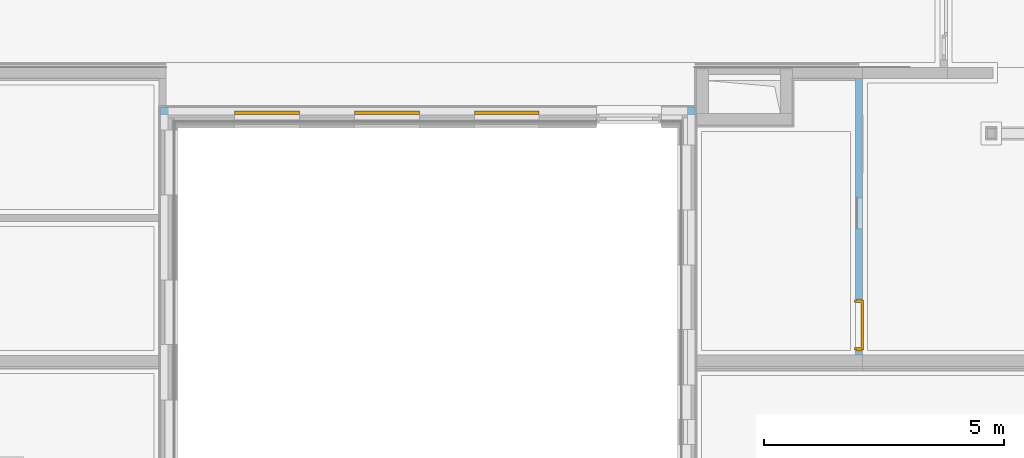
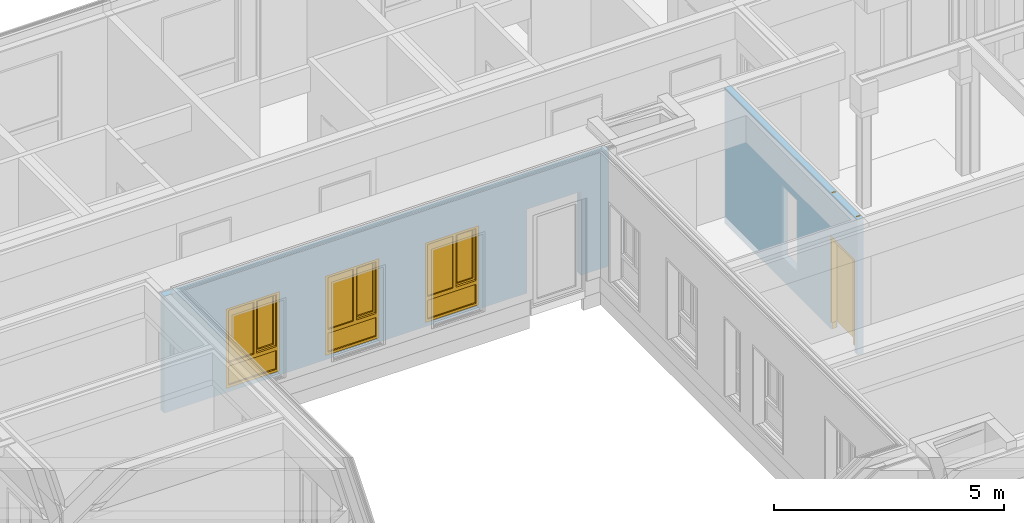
# One storey, part 84 of 207: 3 windows, 1 door, 6 openings, plus 2 elements that do not belong to this part.
"""IFC4 building model written with IfcOpenShell, lengths in metres."""

import ifcopenshell
import ifcopenshell.guid

model = None  # the IFC model being written
_history = None  # IfcOwnerHistory: only IFC2X3 demands one
_inside = {}  # id of a spatial element -> (the spatial element, [elements in it])
_under = {}  # id of a project, library or spatial element -> (it, [spatial elements below it])
_declared = {}  # id of a project -> (the project, [libraries it declares])
_typed = {}  # id of a type object -> (the type object, [elements of that type])
_made_of = {}  # id of a material, layer set ... -> (it, [elements and type objects made of it])


def new_model(schema):
    """Start an empty IFC model of exactly this schema.

    Asked for "IFC4X3", IfcOpenShell would pick the latest addendum, in which some entities
    have other attributes; the version numbers below select the first issue.
    IFC2X3 requires an IfcOwnerHistory on every rooted entity: one is made here for all.
    """
    global model, _history
    if schema == "IFC4X3":
        model = ifcopenshell.file(schema_version=(4, 3, 0, 0))
    else:
        model = ifcopenshell.file(schema=schema)
    _inside.clear()
    _under.clear()
    _declared.clear()
    _typed.clear()
    _made_of.clear()
    _history = None
    if model.schema == "IFC2X3":
        org = make("IfcOrganization", Name="unknown")
        user = make(
            "IfcPersonAndOrganization",
            ThePerson=make("IfcPerson", FamilyName="unknown"),
            TheOrganization=org,
        )
        app = make(
            "IfcApplication",
            ApplicationDeveloper=org,
            Version="unknown",
            ApplicationFullName="unknown",
            ApplicationIdentifier="unknown",
        )
        _history = make(
            "IfcOwnerHistory",
            OwningUser=user,
            OwningApplication=app,
            ChangeAction="ADDED",
            CreationDate=0,
        )
    return model


def make(cls, **values):
    """One entity of the class cls with the attributes given. An attribute that is None is left unset."""
    return model.create_entity(
        cls, **{name: value for name, value in values.items() if value is not None}
    )


def entity(cls, *values):
    """Any entity or typed value of the class cls, its attributes in the order of the schema. None: left unset."""
    e = model.create_entity(cls)
    for i, value in enumerate(values):
        if value is not None:
            e[i] = value
    return e


def rooted(cls, **values):
    """An entity with a GlobalId (a new one), such as an element, a storey or a relation."""
    return make(cls, GlobalId=ifcopenshell.guid.new(), OwnerHistory=_history, **values)


def si_unit(unit_type, name, prefix=None):
    """IfcSIUnit, for example si_unit("LENGTHUNIT", "METRE", prefix="MILLI")."""
    return make("IfcSIUnit", UnitType=unit_type, Prefix=prefix, Name=name)


def converted_unit(unit_type, name, factor, base, dimensions=None, offset=None):
    """IfcConversionBasedUnit, such as the inch: factor (a typed value) times the base unit."""
    return make(
        "IfcConversionBasedUnit"
        if offset is None
        else "IfcConversionBasedUnitWithOffset",
        ConversionOffset=offset,
        Dimensions=None
        if dimensions is None
        else entity("IfcDimensionalExponents", *dimensions),
        UnitType=unit_type,
        Name=name,
        ConversionFactor=make(
            "IfcMeasureWithUnit", ValueComponent=factor, UnitComponent=base
        ),
    )


def derived_unit(unit_type, elements):
    """IfcDerivedUnit: a product of units, each with its exponent."""
    return make(
        "IfcDerivedUnit",
        Elements=[
            make("IfcDerivedUnitElement", Unit=unit, Exponent=power)
            for unit, power in elements
        ],
        UnitType=unit_type,
    )


def assignment(units):
    """IfcUnitAssignment: the units of a project."""
    return None if units is None else make("IfcUnitAssignment", Units=units)


def point(xyz):
    """IfcCartesianPoint."""
    return None if xyz is None else make("IfcCartesianPoint", Coordinates=xyz)


def direction(xyz):
    """IfcDirection."""
    return None if xyz is None else make("IfcDirection", DirectionRatios=xyz)


def frame(location, z_axis=None, x_axis=None):
    """IfcAxis2Placement3D, a coordinate frame: its origin and axes. An axis left out is left unset."""
    return make(
        "IfcAxis2Placement3D",
        Location=point(location),
        Axis=direction(z_axis),
        RefDirection=direction(x_axis),
    )


def frame_2d(location, x_axis=None):
    """IfcAxis2Placement2D, a coordinate frame in the plane: its origin and x axis."""
    return make(
        "IfcAxis2Placement2D", Location=point(location), RefDirection=direction(x_axis)
    )


def origin():
    """The frame at (0, 0, 0) with its axes left unset."""
    return frame((0.0, 0.0, 0.0))


def origin_with_axes():
    """The frame at (0, 0, 0) with the z axis (0, 0, 1) and the x axis (1, 0, 0) written out."""
    return frame((0.0, 0.0, 0.0), z_axis=(0.0, 0.0, 1.0), x_axis=(1.0, 0.0, 0.0))


def place(relative_to, where):
    """IfcLocalPlacement: puts the frame where relative to a parent placement (None: the world)."""
    return make(
        "IfcLocalPlacement", PlacementRelTo=relative_to, RelativePlacement=where
    )


def context(
    kind, dimensions, precision=None, world=None, true_north=None, identifier=None
):
    """IfcGeometricRepresentationContext, for example the 3D "Model" context."""
    return make(
        "IfcGeometricRepresentationContext",
        ContextIdentifier=identifier,
        ContextType=kind,
        CoordinateSpaceDimension=dimensions,
        Precision=precision,
        WorldCoordinateSystem=world,
        TrueNorth=true_north,
    )


def subcontext(parent, identifier, kind, view, scale=None):
    """IfcGeometricRepresentationSubContext, for example "Body" below "Model"."""
    return make(
        "IfcGeometricRepresentationSubContext",
        ContextIdentifier=identifier,
        ContextType=kind,
        ParentContext=parent,
        TargetScale=scale,
        TargetView=view,
    )


def project(units=None, contexts=None):
    """IfcProject with its units and contexts."""
    return rooted(
        "IfcProject",
        Name="project",
        RepresentationContexts=contexts,
        UnitsInContext=assignment(units),
    )


def spatial(cls, under=None, at=None, **own):
    """A site, building, storey or space (cls), placed at a placement, below another one or the project."""
    s = rooted(cls, ObjectPlacement=at, **own)
    if under is not None:
        _under.setdefault(under.id(), (under, []))[1].append(s)
    return s


def polyline(points):
    """IfcPolyline through the points."""
    return make("IfcPolyline", Points=[point(p) for p in points])


def profile(cls, at=None, kind="AREA", **sizes):
    """A parametric profile (cls). Its sizes go by their IFC names, for example OverallWidth=200.0."""
    return make(cls, ProfileType=kind, Position=at, **sizes)


def rectangle(**sizes):
    """IfcRectangleProfileDef."""
    return profile("IfcRectangleProfileDef", **sizes)


def outline(outer, holes=None, kind="AREA"):
    """IfcArbitraryClosedProfileDef: a profile drawn as a closed curve; with holes, ...WithVoids."""
    if holes is None:
        return make("IfcArbitraryClosedProfileDef", ProfileType=kind, OuterCurve=outer)
    return make(
        "IfcArbitraryProfileDefWithVoids",
        ProfileType=kind,
        OuterCurve=outer,
        InnerCurves=holes,
    )


def extrude(swept, where, along, depth):
    """IfcExtrudedAreaSolid: the profile swept, set in the frame where, extruded along a direction by depth."""
    return make(
        "IfcExtrudedAreaSolid",
        SweptArea=swept,
        Position=where,
        ExtrudedDirection=direction(along),
        Depth=depth,
    )


def faces_of(points, faces, orient=None, outer=None):
    """IfcFace entities. A face is a list of loops; a loop is a list of indices into points, from 0.

    orient and outer hold one flag for each loop. By default every Orientation is true, the
    first loop of a face is its IfcFaceOuterBound and the others are IfcFaceBound.
    """
    made = []
    for i, loops in enumerate(faces):
        bounds = []
        for j, loop in enumerate(loops):
            is_outer = j == 0 if outer is None else outer[i][j]
            bounds.append(
                make(
                    "IfcFaceOuterBound" if is_outer else "IfcFaceBound",
                    Bound=make("IfcPolyLoop", Polygon=[points[k] for k in loop]),
                    Orientation=True if orient is None else orient[i][j],
                )
            )
        made.append(make("IfcFace", Bounds=bounds))
    return made


def closed_shell(faces, orient=None, outer=None):
    """The faces of one IfcClosedShell. faceted_brep and surface_model build it on their shared points."""
    return ("IfcClosedShell", faces, orient, outer)


def open_shell(faces, orient=None, outer=None):
    """The faces of one IfcOpenShell. surface_model builds it on its shared points."""
    return ("IfcOpenShell", faces, orient, outer)


def faceted_brep(points, faces, orient=None, outer=None, voids=None):
    """IfcFacetedBrep: a solid bounded by flat faces; with voids (closed shells), ...WithVoids."""
    shared = [point(p) for p in points]
    hull = make("IfcClosedShell", CfsFaces=faces_of(shared, faces, orient, outer))
    if voids is None:
        return make("IfcFacetedBrep", Outer=hull)
    return make(
        "IfcFacetedBrepWithVoids",
        Outer=hull,
        Voids=[
            make(cls, CfsFaces=faces_of(shared, fs, o, b)) for cls, fs, o, b in voids
        ],
    )


def surface_model(cls, points, shells):
    """IfcFaceBasedSurfaceModel or IfcShellBasedSurfaceModel (cls): surfaces that need not close."""
    shared = [point(p) for p in points]
    made = [make(c, CfsFaces=faces_of(shared, fs, o, b)) for c, fs, o, b in shells]
    if cls == "IfcFaceBasedSurfaceModel":
        return make(cls, FbsmFaces=made)
    return make(cls, SbsmBoundary=made)


def shape(context_of_items, identifier, shape_type, items):
    """IfcShapeRepresentation: the items that make up one representation, for example the "Body"."""
    return make(
        "IfcShapeRepresentation",
        ContextOfItems=context_of_items,
        RepresentationIdentifier=identifier,
        RepresentationType=shape_type,
        Items=items,
    )


def source(mapping_origin, context_of_items, identifier, shape_type, items):
    """IfcRepresentationMap: a shape defined once, which mapped items show again and again."""
    return make(
        "IfcRepresentationMap",
        MappingOrigin=mapping_origin,
        MappedRepresentation=shape(context_of_items, identifier, shape_type, items),
    )


def transform(
    local_origin,
    x_axis=None,
    y_axis=None,
    z_axis=None,
    scale=None,
    scale2=None,
    scale3=None,
    uniform=True,
):
    """IfcCartesianTransformationOperator3D, or its non-uniform kind. x_axis, y_axis, z_axis: its Axis1, 2, 3."""
    if uniform:
        return make(
            "IfcCartesianTransformationOperator3D",
            Axis1=direction(x_axis),
            Axis2=direction(y_axis),
            LocalOrigin=point(local_origin),
            Scale=scale,
            Axis3=direction(z_axis),
        )
    return make(
        "IfcCartesianTransformationOperator3DnonUniform",
        Axis1=direction(x_axis),
        Axis2=direction(y_axis),
        LocalOrigin=point(local_origin),
        Scale=scale,
        Axis3=direction(z_axis),
        Scale2=scale2,
        Scale3=scale3,
    )


def mapped(mapping_source, mapping_target):
    """IfcMappedItem: shows the shape of a source again, moved by a transform."""
    return make(
        "IfcMappedItem", MappingSource=mapping_source, MappingTarget=mapping_target
    )


def material(Name=None, Category=None):
    """IfcMaterial."""
    return make("IfcMaterial", Name=Name, Category=Category)


def made_of(thing, what):
    """Note that an element or type object is made of a material, layer set ...; save() writes the relation."""
    if what is not None:
        _made_of.setdefault(what.id(), (what, []))[1].append(thing)
    return thing


def type_object(cls, material=None, **own):
    """A type object (cls), such as IfcWallType, which elements share."""
    return made_of(rooted(cls, **own), material)


def element(
    cls,
    number,
    at=None,
    inside=None,
    cuts=None,
    type_object=None,
    material=None,
    context=None,
    identifier="Body",
    shape_type=None,
    held_by="IfcProductDefinitionShape",
    body=None,
    shapes=None,
    **own,
):
    """One element of the class cls, such as IfcWall. Its Tag is "e" and its number.

    at: its placement. inside: the storey or other place that contains it. cuts: it is an
    opening in that element (IfcRelVoidsElement). A single representation is given by context,
    identifier, shape_type and body (its items); several are given by shapes. held_by: the class
    of the entity that holds the representations. save() writes the other relations.
    """
    e = rooted(cls, Tag="e%d" % number, ObjectPlacement=at, **own)
    if body is not None:
        shapes = [shape(context, identifier, shape_type, body)]
    if shapes is not None:
        e.Representation = make(held_by, Representations=shapes)
    if inside is not None:
        _inside.setdefault(inside.id(), (inside, []))[1].append(e)
    if cuts is not None:
        rooted(
            "IfcRelVoidsElement", RelatingBuildingElement=cuts, RelatedOpeningElement=e
        )
    if type_object is not None:
        _typed.setdefault(type_object.id(), (type_object, []))[1].append(e)
    return made_of(e, material)


def fill(opening, filler):
    """IfcRelFillsElement: the door or window that sits in an opening."""
    return rooted(
        "IfcRelFillsElement",
        RelatingOpeningElement=opening,
        RelatedBuildingElement=filler,
    )


def aggregate(whole, parts):
    """IfcRelAggregates: a whole, such as a stair, and the parts it consists of."""
    return rooted("IfcRelAggregates", RelatingObject=whole, RelatedObjects=parts)


def save(model, path):
    """Write the relations noted so far, then the file.

    IfcRelAggregates (storeys below a building ...), IfcRelContainedInSpatialStructure (elements
    in a storey), IfcRelDefinesByType, IfcRelAssociatesMaterial and IfcRelDeclares: one each for
    every whole, place, type object, material and project.
    """
    for whole, parts in _under.values():
        aggregate(whole, parts)
    for where, things in _inside.values():
        rooted(
            "IfcRelContainedInSpatialStructure",
            RelatedElements=things,
            RelatingStructure=where,
        )
    for kind, things in _typed.values():
        rooted("IfcRelDefinesByType", RelatedObjects=things, RelatingType=kind)
    for what, things in _made_of.values():
        rooted("IfcRelAssociatesMaterial", RelatedObjects=things, RelatingMaterial=what)
    for by, libraries in _declared.values():
        rooted("IfcRelDeclares", RelatingContext=by, RelatedDefinitions=libraries)
    model.write(path)


model = new_model("IFC4")

# Units and contexts
model_context = context("Model", 3, precision=1e-05, world=origin())
body_context = subcontext(model_context, "Body", "Model", "MODEL_VIEW")
ifc_project = project(units=[si_unit("LENGTHUNIT", "METRE"), si_unit("AREAUNIT", "SQUARE_METRE"), si_unit("VOLUMEUNIT", "CUBIC_METRE"), si_unit("MASSUNIT", "GRAM", prefix="KILO"), converted_unit("PLANEANGLEUNIT", "DEGREE", entity("IfcPlaneAngleMeasure", 0.0174532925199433), si_unit("PLANEANGLEUNIT", "RADIAN"), dimensions=[0, 0, 0, 0, 0, 0, 0]), derived_unit("THERMALTRANSMITTANCEUNIT", [(si_unit("POWERUNIT", "WATT"), 1), (si_unit("THERMODYNAMICTEMPERATUREUNIT", "KELVIN"), -1), (si_unit("LENGTHUNIT", "METRE"), -2)]), derived_unit("VOLUMETRICFLOWRATEUNIT", [(si_unit("LENGTHUNIT", "METRE"), 3), (converted_unit("TIMEUNIT", "hour", entity("IfcTimeMeasure", 3600.0), si_unit("TIMEUNIT", "SECOND"), dimensions=[0, 0, 1, 0, 0, 0, 0]), -1), (si_unit("LENGTHUNIT", "METRE"), -1)])], contexts=[model_context])

# Site, building, storey
site_placement = place(None, origin())
site = spatial("IfcSite", under=ifc_project, at=site_placement, Name="Psychiatrie Neubau Wunstorf", CompositionType="ELEMENT")
building_placement = place(site_placement, origin())
building = spatial("IfcBuilding", under=site, at=building_placement, Name="Neubau H2 Stationsgebäude", CompositionType="ELEMENT")
storey_placement = place(building_placement, frame((0.0, 0.0, -0.2)))
storey = spatial("IfcBuildingStorey", under=building, at=storey_placement, Name="H2 Ebene 0", CompositionType="ELEMENT", Elevation=-0.2)

# Wall, openings, windows
ifc_material_1 = material(Name="WA-HD")
wall_1_placement = place(storey_placement, frame((26.825, 21.0, 0.5), z_axis=(0.0, 0.0, 1.0), x_axis=(-1.0, 0.0, 0.0)))
wall_1 = element("IfcWall", 1, at=wall_1_placement, inside=storey, material=ifc_material_1, context=body_context, shape_type="SweptSolid", body=[
    extrude(rectangle(XDim=11.15, YDim=0.16, at=frame_2d((5.575, 0.08), x_axis=(1.0, 0.0))), origin_with_axes(), (0.0, 0.0, 1.0), 3.1),
])
opening_1_placement = place(wall_1_placement, frame((9.60469999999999, 0.16, 0.1), z_axis=(0.0, -1.0, 0.0), x_axis=(0.0, 0.0, 1.0)))
opening_1 = element("IfcOpeningElement", 2, at=opening_1_placement, cuts=wall_1, Name="Fensteröffnung", ObjectType="Opening", context=body_context, shape_type="SweptSolid", body=[
    extrude(outline(polyline([(2.12, 1.35), (2.12, 0.0), (0.0, 0.0), (0.0, 1.35), (2.12, 1.35)])), origin_with_axes(), (0.0, 0.0, 1.0), 0.16),
])
opening_2_placement = place(wall_1_placement, frame((7.10469999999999, 0.16, 0.1), z_axis=(0.0, -1.0, 0.0), x_axis=(0.0, 0.0, 1.0)))
opening_2 = element("IfcOpeningElement", 3, at=opening_2_placement, cuts=wall_1, Name="Fensteröffnung", ObjectType="Opening", context=body_context, shape_type="SweptSolid", body=[
    extrude(outline(polyline([(2.12, 1.35), (2.12, 0.0), (0.0, 0.0), (0.0, 1.35), (2.12, 1.35)])), origin_with_axes(), (0.0, 0.0, 1.0), 0.16),
])
opening_3_placement = place(wall_1_placement, frame((4.60469999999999, 0.16, 0.1), z_axis=(0.0, -1.0, 0.0), x_axis=(0.0, 0.0, 1.0)))
opening_3 = element("IfcOpeningElement", 4, at=opening_3_placement, cuts=wall_1, Name="Fensteröffnung", ObjectType="Opening", context=body_context, shape_type="SweptSolid", body=[
    extrude(outline(polyline([(2.12, 1.35), (2.12, 0.0), (0.0, 0.0), (0.0, 1.35), (2.12, 1.35)])), origin_with_axes(), (0.0, 0.0, 1.0), 0.16),
])
opening_4_placement = place(wall_1_placement, frame((2.05483132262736, 0.16, -0.5), z_axis=(0.0, -1.0, 0.0), x_axis=(0.0, 0.0, 1.0)))
element("IfcOpeningElement", 5, at=opening_4_placement, cuts=wall_1, Name="Türöffnung", ObjectType="Opening", context=body_context, shape_type="SweptSolid", body=[
    extrude(outline(polyline([(2.72, 1.35), (2.72, 0.0), (0.0, 0.0), (0.0, 1.35), (2.72, 1.35)])), origin_with_axes(), (0.0, 0.0, 1.0), 0.16),
])
shared_shape_1 = source(origin_with_axes(), body_context, "Body", "SurfaceModel", [
    surface_model("IfcShellBasedSurfaceModel", [(0.0, 0.0, 2.12), (0.07, 0.0, 2.12), (0.07, 0.0, 0.0), (0.0, 0.0, 0.0), (0.0, 0.07, 0.0), (0.07, 0.07, 0.0), (0.07, 0.07, 2.12), (0.0, 0.07, 2.12)], [closed_shell([[[0, 1, 2, 3]], [[4, 5, 6, 7]], [[3, 4, 7, 0]], [[2, 5, 4, 3]], [[1, 6, 5, 2]], [[0, 7, 6, 1]]], orient=[[False], [False], [False], [False], [False], [False]])]),
    surface_model("IfcShellBasedSurfaceModel", [(1.28, 0.0, 2.12), (1.35, 0.0, 2.12), (1.35, 0.0, 0.0), (1.28, 0.0, 0.0), (1.28, 0.07, 0.0), (1.35, 0.07, 0.0), (1.35, 0.07, 2.12), (1.28, 0.07, 2.12)], [closed_shell([[[0, 1, 2, 3]], [[4, 5, 6, 7]], [[3, 4, 7, 0]], [[2, 5, 4, 3]], [[1, 6, 5, 2]], [[0, 7, 6, 1]]], orient=[[False], [False], [False], [False], [False], [False]])]),
    surface_model("IfcShellBasedSurfaceModel", [(0.07, 0.0, 0.07), (1.28, 0.0, 0.07), (1.28, 0.0, 0.0), (0.07, 0.0, 0.0), (0.07, 0.07, 0.0), (1.28, 0.07, 0.0), (1.28, 0.07, 0.07), (0.07, 0.07, 0.07)], [closed_shell([[[0, 1, 2, 3]], [[4, 5, 6, 7]], [[3, 4, 7, 0]], [[2, 5, 4, 3]], [[1, 6, 5, 2]], [[0, 7, 6, 1]]], orient=[[False], [False], [False], [False], [False], [False]])]),
    surface_model("IfcShellBasedSurfaceModel", [(0.07, 0.0, 2.12), (1.28, 0.0, 2.12), (1.28, 0.0, 2.05), (0.07, 0.0, 2.05), (0.07, 0.07, 2.05), (1.28, 0.07, 2.05), (1.28, 0.07, 2.12), (0.07, 0.07, 2.12)], [closed_shell([[[0, 1, 2, 3]], [[4, 5, 6, 7]], [[3, 4, 7, 0]], [[2, 5, 4, 3]], [[1, 6, 5, 2]], [[0, 7, 6, 1]]], orient=[[False], [False], [False], [False], [False], [False]])]),
    surface_model("IfcShellBasedSurfaceModel", [(0.07, 0.0, 0.67), (1.28, 0.0, 0.67), (1.28, 0.0, 0.57), (0.07, 0.0, 0.57), (0.07, 0.07, 0.57), (1.28, 0.07, 0.57), (1.28, 0.07, 0.67), (0.07, 0.07, 0.67)], [closed_shell([[[0, 1, 2, 3]], [[4, 5, 6, 7]], [[3, 4, 7, 0]], [[2, 5, 4, 3]], [[1, 6, 5, 2]], [[0, 7, 6, 1]]], orient=[[False], [False], [False], [False], [False], [False]])]),
    surface_model("IfcShellBasedSurfaceModel", [(0.07, 0.035, 0.07), (0.07, 0.035, 0.57), (1.28, 0.035, 0.57), (1.28, 0.035, 0.07)], [open_shell([[[0, 1, 2, 3]]], orient=[[False]])]),
    surface_model("IfcShellBasedSurfaceModel", [(0.57, 0.0, 2.05), (0.64, 0.0, 2.05), (0.64, 0.0, 0.67), (0.57, 0.0, 0.67), (0.57, 0.07, 0.67), (0.64, 0.07, 0.67), (0.64, 0.07, 2.05), (0.57, 0.07, 2.05)], [closed_shell([[[0, 1, 2, 3]], [[4, 5, 6, 7]], [[3, 4, 7, 0]], [[2, 5, 4, 3]], [[1, 6, 5, 2]], [[0, 7, 6, 1]]], orient=[[False], [False], [False], [False], [False], [False]])]),
    surface_model("IfcShellBasedSurfaceModel", [(0.05, -0.05, 2.07), (0.12, -0.05, 2.07), (0.12, -0.05, 0.65), (0.05, -0.05, 0.65), (0.05, 0.02, 0.65), (0.12, 0.02, 0.65), (0.12, 0.02, 2.07), (0.05, 0.02, 2.07)], [closed_shell([[[0, 1, 2, 3]], [[4, 5, 6, 7]], [[3, 4, 7, 0]], [[2, 5, 4, 3]], [[1, 6, 5, 2]], [[0, 7, 6, 1]]], orient=[[False], [False], [False], [False], [False], [False]])]),
    surface_model("IfcShellBasedSurfaceModel", [(0.52, -0.05, 2.07), (0.59, -0.05, 2.07), (0.59, -0.05, 0.65), (0.52, -0.05, 0.65), (0.52, 0.02, 0.65), (0.59, 0.02, 0.65), (0.59, 0.02, 2.07), (0.52, 0.02, 2.07)], [closed_shell([[[0, 1, 2, 3]], [[4, 5, 6, 7]], [[3, 4, 7, 0]], [[2, 5, 4, 3]], [[1, 6, 5, 2]], [[0, 7, 6, 1]]], orient=[[False], [False], [False], [False], [False], [False]])]),
    surface_model("IfcShellBasedSurfaceModel", [(0.12, -0.05, 0.72), (0.52, -0.05, 0.72), (0.52, -0.05, 0.65), (0.12, -0.05, 0.65), (0.12, 0.02, 0.65), (0.52, 0.02, 0.65), (0.52, 0.02, 0.72), (0.12, 0.02, 0.72)], [closed_shell([[[0, 1, 2, 3]], [[4, 5, 6, 7]], [[3, 4, 7, 0]], [[2, 5, 4, 3]], [[1, 6, 5, 2]], [[0, 7, 6, 1]]], orient=[[False], [False], [False], [False], [False], [False]])]),
    surface_model("IfcShellBasedSurfaceModel", [(0.12, -0.05, 2.07), (0.52, -0.05, 2.07), (0.52, -0.05, 2.0), (0.12, -0.05, 2.0), (0.12, 0.02, 2.0), (0.52, 0.02, 2.0), (0.52, 0.02, 2.07), (0.12, 0.02, 2.07)], [closed_shell([[[0, 1, 2, 3]], [[4, 5, 6, 7]], [[3, 4, 7, 0]], [[2, 5, 4, 3]], [[1, 6, 5, 2]], [[0, 7, 6, 1]]], orient=[[False], [False], [False], [False], [False], [False]])]),
    surface_model("IfcShellBasedSurfaceModel", [(0.64, 0.035, 0.67), (0.64, 0.035, 2.05), (1.28, 0.035, 2.05), (1.28, 0.035, 0.67)], [open_shell([[[0, 1, 2, 3]]], orient=[[False]])]),
    surface_model("IfcShellBasedSurfaceModel", [(0.12, -0.015, 0.72), (0.12, -0.015, 2.0), (0.52, -0.015, 2.0), (0.52, -0.015, 0.72)], [open_shell([[[0, 1, 2, 3]]], orient=[[False]])]),
])
window_1_placement = place(opening_1_placement, frame((0.0, 1.35, 0.086), z_axis=(1.0, 0.0, 0.0), x_axis=(0.0, -1.0, 0.0)))
window_1 = element("IfcWindow", 6, at=window_1_placement, inside=storey, Name="Fenster", OverallHeight=2.12, OverallWidth=1.35, PartitioningType="USERDEFINED", PredefinedType="WINDOW", context=body_context, shape_type="MappedRepresentation", body=[
    mapped(shared_shape_1, transform((0.0, 0.0, 0.0), x_axis=(1.0, 0.0, 0.0), y_axis=(0.0, 1.0, 0.0), z_axis=(0.0, 0.0, 1.0), scale=1.0)),
])
fill(opening_1, window_1)
shared_shape_2 = source(origin_with_axes(), body_context, "Body", "SurfaceModel", [
    surface_model("IfcShellBasedSurfaceModel", [(0.0, 0.0, 2.12), (0.07, 0.0, 2.12), (0.07, 0.0, 0.0), (0.0, 0.0, 0.0), (0.0, 0.07, 0.0), (0.07, 0.07, 0.0), (0.07, 0.07, 2.12), (0.0, 0.07, 2.12)], [closed_shell([[[0, 1, 2, 3]], [[4, 5, 6, 7]], [[3, 4, 7, 0]], [[2, 5, 4, 3]], [[1, 6, 5, 2]], [[0, 7, 6, 1]]], orient=[[False], [False], [False], [False], [False], [False]])]),
    surface_model("IfcShellBasedSurfaceModel", [(1.28, 0.0, 2.12), (1.35, 0.0, 2.12), (1.35, 0.0, 0.0), (1.28, 0.0, 0.0), (1.28, 0.07, 0.0), (1.35, 0.07, 0.0), (1.35, 0.07, 2.12), (1.28, 0.07, 2.12)], [closed_shell([[[0, 1, 2, 3]], [[4, 5, 6, 7]], [[3, 4, 7, 0]], [[2, 5, 4, 3]], [[1, 6, 5, 2]], [[0, 7, 6, 1]]], orient=[[False], [False], [False], [False], [False], [False]])]),
    surface_model("IfcShellBasedSurfaceModel", [(0.07, 0.0, 0.07), (1.28, 0.0, 0.07), (1.28, 0.0, 0.0), (0.07, 0.0, 0.0), (0.07, 0.07, 0.0), (1.28, 0.07, 0.0), (1.28, 0.07, 0.07), (0.07, 0.07, 0.07)], [closed_shell([[[0, 1, 2, 3]], [[4, 5, 6, 7]], [[3, 4, 7, 0]], [[2, 5, 4, 3]], [[1, 6, 5, 2]], [[0, 7, 6, 1]]], orient=[[False], [False], [False], [False], [False], [False]])]),
    surface_model("IfcShellBasedSurfaceModel", [(0.07, 0.0, 2.12), (1.28, 0.0, 2.12), (1.28, 0.0, 2.05), (0.07, 0.0, 2.05), (0.07, 0.07, 2.05), (1.28, 0.07, 2.05), (1.28, 0.07, 2.12), (0.07, 0.07, 2.12)], [closed_shell([[[0, 1, 2, 3]], [[4, 5, 6, 7]], [[3, 4, 7, 0]], [[2, 5, 4, 3]], [[1, 6, 5, 2]], [[0, 7, 6, 1]]], orient=[[False], [False], [False], [False], [False], [False]])]),
    surface_model("IfcShellBasedSurfaceModel", [(0.07, 0.0, 0.67), (1.28, 0.0, 0.67), (1.28, 0.0, 0.57), (0.07, 0.0, 0.57), (0.07, 0.07, 0.57), (1.28, 0.07, 0.57), (1.28, 0.07, 0.67), (0.07, 0.07, 0.67)], [closed_shell([[[0, 1, 2, 3]], [[4, 5, 6, 7]], [[3, 4, 7, 0]], [[2, 5, 4, 3]], [[1, 6, 5, 2]], [[0, 7, 6, 1]]], orient=[[False], [False], [False], [False], [False], [False]])]),
    surface_model("IfcShellBasedSurfaceModel", [(0.07, 0.035, 0.07), (0.07, 0.035, 0.57), (1.28, 0.035, 0.57), (1.28, 0.035, 0.07)], [open_shell([[[0, 1, 2, 3]]], orient=[[False]])]),
    surface_model("IfcShellBasedSurfaceModel", [(0.57, 0.0, 2.05), (0.64, 0.0, 2.05), (0.64, 0.0, 0.67), (0.57, 0.0, 0.67), (0.57, 0.07, 0.67), (0.64, 0.07, 0.67), (0.64, 0.07, 2.05), (0.57, 0.07, 2.05)], [closed_shell([[[0, 1, 2, 3]], [[4, 5, 6, 7]], [[3, 4, 7, 0]], [[2, 5, 4, 3]], [[1, 6, 5, 2]], [[0, 7, 6, 1]]], orient=[[False], [False], [False], [False], [False], [False]])]),
    surface_model("IfcShellBasedSurfaceModel", [(0.05, -0.05, 2.07), (0.12, -0.05, 2.07), (0.12, -0.05, 0.65), (0.05, -0.05, 0.65), (0.05, 0.02, 0.65), (0.12, 0.02, 0.65), (0.12, 0.02, 2.07), (0.05, 0.02, 2.07)], [closed_shell([[[0, 1, 2, 3]], [[4, 5, 6, 7]], [[3, 4, 7, 0]], [[2, 5, 4, 3]], [[1, 6, 5, 2]], [[0, 7, 6, 1]]], orient=[[False], [False], [False], [False], [False], [False]])]),
    surface_model("IfcShellBasedSurfaceModel", [(0.52, -0.05, 2.07), (0.59, -0.05, 2.07), (0.59, -0.05, 0.65), (0.52, -0.05, 0.65), (0.52, 0.02, 0.65), (0.59, 0.02, 0.65), (0.59, 0.02, 2.07), (0.52, 0.02, 2.07)], [closed_shell([[[0, 1, 2, 3]], [[4, 5, 6, 7]], [[3, 4, 7, 0]], [[2, 5, 4, 3]], [[1, 6, 5, 2]], [[0, 7, 6, 1]]], orient=[[False], [False], [False], [False], [False], [False]])]),
    surface_model("IfcShellBasedSurfaceModel", [(0.12, -0.05, 0.72), (0.52, -0.05, 0.72), (0.52, -0.05, 0.65), (0.12, -0.05, 0.65), (0.12, 0.02, 0.65), (0.52, 0.02, 0.65), (0.52, 0.02, 0.72), (0.12, 0.02, 0.72)], [closed_shell([[[0, 1, 2, 3]], [[4, 5, 6, 7]], [[3, 4, 7, 0]], [[2, 5, 4, 3]], [[1, 6, 5, 2]], [[0, 7, 6, 1]]], orient=[[False], [False], [False], [False], [False], [False]])]),
    surface_model("IfcShellBasedSurfaceModel", [(0.12, -0.05, 2.07), (0.52, -0.05, 2.07), (0.52, -0.05, 2.0), (0.12, -0.05, 2.0), (0.12, 0.02, 2.0), (0.52, 0.02, 2.0), (0.52, 0.02, 2.07), (0.12, 0.02, 2.07)], [closed_shell([[[0, 1, 2, 3]], [[4, 5, 6, 7]], [[3, 4, 7, 0]], [[2, 5, 4, 3]], [[1, 6, 5, 2]], [[0, 7, 6, 1]]], orient=[[False], [False], [False], [False], [False], [False]])]),
    surface_model("IfcShellBasedSurfaceModel", [(0.64, 0.035, 0.67), (0.64, 0.035, 2.05), (1.28, 0.035, 2.05), (1.28, 0.035, 0.67)], [open_shell([[[0, 1, 2, 3]]], orient=[[False]])]),
    surface_model("IfcShellBasedSurfaceModel", [(0.12, -0.015, 0.72), (0.12, -0.015, 2.0), (0.52, -0.015, 2.0), (0.52, -0.015, 0.72)], [open_shell([[[0, 1, 2, 3]]], orient=[[False]])]),
])
window_2_placement = place(opening_2_placement, frame((0.0, 1.35, 0.086), z_axis=(1.0, 0.0, 0.0), x_axis=(0.0, -1.0, 0.0)))
window_2 = element("IfcWindow", 7, at=window_2_placement, inside=storey, Name="Fenster", OverallHeight=2.12, OverallWidth=1.35, PartitioningType="USERDEFINED", PredefinedType="WINDOW", context=body_context, shape_type="MappedRepresentation", body=[
    mapped(shared_shape_2, transform((0.0, 0.0, 0.0), x_axis=(1.0, 0.0, 0.0), y_axis=(0.0, 1.0, 0.0), z_axis=(0.0, 0.0, 1.0), scale=1.0)),
])
fill(opening_2, window_2)
shared_shape_3 = source(origin_with_axes(), body_context, "Body", "SurfaceModel", [
    surface_model("IfcShellBasedSurfaceModel", [(0.0, 0.0, 2.12), (0.07, 0.0, 2.12), (0.07, 0.0, 0.0), (0.0, 0.0, 0.0), (0.0, 0.07, 0.0), (0.07, 0.07, 0.0), (0.07, 0.07, 2.12), (0.0, 0.07, 2.12)], [closed_shell([[[0, 1, 2, 3]], [[4, 5, 6, 7]], [[3, 4, 7, 0]], [[2, 5, 4, 3]], [[1, 6, 5, 2]], [[0, 7, 6, 1]]], orient=[[False], [False], [False], [False], [False], [False]])]),
    surface_model("IfcShellBasedSurfaceModel", [(1.28, 0.0, 2.12), (1.35, 0.0, 2.12), (1.35, 0.0, 0.0), (1.28, 0.0, 0.0), (1.28, 0.07, 0.0), (1.35, 0.07, 0.0), (1.35, 0.07, 2.12), (1.28, 0.07, 2.12)], [closed_shell([[[0, 1, 2, 3]], [[4, 5, 6, 7]], [[3, 4, 7, 0]], [[2, 5, 4, 3]], [[1, 6, 5, 2]], [[0, 7, 6, 1]]], orient=[[False], [False], [False], [False], [False], [False]])]),
    surface_model("IfcShellBasedSurfaceModel", [(0.07, 0.0, 0.07), (1.28, 0.0, 0.07), (1.28, 0.0, 0.0), (0.07, 0.0, 0.0), (0.07, 0.07, 0.0), (1.28, 0.07, 0.0), (1.28, 0.07, 0.07), (0.07, 0.07, 0.07)], [closed_shell([[[0, 1, 2, 3]], [[4, 5, 6, 7]], [[3, 4, 7, 0]], [[2, 5, 4, 3]], [[1, 6, 5, 2]], [[0, 7, 6, 1]]], orient=[[False], [False], [False], [False], [False], [False]])]),
    surface_model("IfcShellBasedSurfaceModel", [(0.07, 0.0, 2.12), (1.28, 0.0, 2.12), (1.28, 0.0, 2.05), (0.07, 0.0, 2.05), (0.07, 0.07, 2.05), (1.28, 0.07, 2.05), (1.28, 0.07, 2.12), (0.07, 0.07, 2.12)], [closed_shell([[[0, 1, 2, 3]], [[4, 5, 6, 7]], [[3, 4, 7, 0]], [[2, 5, 4, 3]], [[1, 6, 5, 2]], [[0, 7, 6, 1]]], orient=[[False], [False], [False], [False], [False], [False]])]),
    surface_model("IfcShellBasedSurfaceModel", [(0.07, 0.0, 0.67), (1.28, 0.0, 0.67), (1.28, 0.0, 0.57), (0.07, 0.0, 0.57), (0.07, 0.07, 0.57), (1.28, 0.07, 0.57), (1.28, 0.07, 0.67), (0.07, 0.07, 0.67)], [closed_shell([[[0, 1, 2, 3]], [[4, 5, 6, 7]], [[3, 4, 7, 0]], [[2, 5, 4, 3]], [[1, 6, 5, 2]], [[0, 7, 6, 1]]], orient=[[False], [False], [False], [False], [False], [False]])]),
    surface_model("IfcShellBasedSurfaceModel", [(0.07, 0.035, 0.07), (0.07, 0.035, 0.57), (1.28, 0.035, 0.57), (1.28, 0.035, 0.07)], [open_shell([[[0, 1, 2, 3]]], orient=[[False]])]),
    surface_model("IfcShellBasedSurfaceModel", [(0.57, 0.0, 2.05), (0.64, 0.0, 2.05), (0.64, 0.0, 0.67), (0.57, 0.0, 0.67), (0.57, 0.07, 0.67), (0.64, 0.07, 0.67), (0.64, 0.07, 2.05), (0.57, 0.07, 2.05)], [closed_shell([[[0, 1, 2, 3]], [[4, 5, 6, 7]], [[3, 4, 7, 0]], [[2, 5, 4, 3]], [[1, 6, 5, 2]], [[0, 7, 6, 1]]], orient=[[False], [False], [False], [False], [False], [False]])]),
    surface_model("IfcShellBasedSurfaceModel", [(0.05, -0.05, 2.07), (0.12, -0.05, 2.07), (0.12, -0.05, 0.65), (0.05, -0.05, 0.65), (0.05, 0.02, 0.65), (0.12, 0.02, 0.65), (0.12, 0.02, 2.07), (0.05, 0.02, 2.07)], [closed_shell([[[0, 1, 2, 3]], [[4, 5, 6, 7]], [[3, 4, 7, 0]], [[2, 5, 4, 3]], [[1, 6, 5, 2]], [[0, 7, 6, 1]]], orient=[[False], [False], [False], [False], [False], [False]])]),
    surface_model("IfcShellBasedSurfaceModel", [(0.52, -0.05, 2.07), (0.59, -0.05, 2.07), (0.59, -0.05, 0.65), (0.52, -0.05, 0.65), (0.52, 0.02, 0.65), (0.59, 0.02, 0.65), (0.59, 0.02, 2.07), (0.52, 0.02, 2.07)], [closed_shell([[[0, 1, 2, 3]], [[4, 5, 6, 7]], [[3, 4, 7, 0]], [[2, 5, 4, 3]], [[1, 6, 5, 2]], [[0, 7, 6, 1]]], orient=[[False], [False], [False], [False], [False], [False]])]),
    surface_model("IfcShellBasedSurfaceModel", [(0.12, -0.05, 0.72), (0.52, -0.05, 0.72), (0.52, -0.05, 0.65), (0.12, -0.05, 0.65), (0.12, 0.02, 0.65), (0.52, 0.02, 0.65), (0.52, 0.02, 0.72), (0.12, 0.02, 0.72)], [closed_shell([[[0, 1, 2, 3]], [[4, 5, 6, 7]], [[3, 4, 7, 0]], [[2, 5, 4, 3]], [[1, 6, 5, 2]], [[0, 7, 6, 1]]], orient=[[False], [False], [False], [False], [False], [False]])]),
    surface_model("IfcShellBasedSurfaceModel", [(0.12, -0.05, 2.07), (0.52, -0.05, 2.07), (0.52, -0.05, 2.0), (0.12, -0.05, 2.0), (0.12, 0.02, 2.0), (0.52, 0.02, 2.0), (0.52, 0.02, 2.07), (0.12, 0.02, 2.07)], [closed_shell([[[0, 1, 2, 3]], [[4, 5, 6, 7]], [[3, 4, 7, 0]], [[2, 5, 4, 3]], [[1, 6, 5, 2]], [[0, 7, 6, 1]]], orient=[[False], [False], [False], [False], [False], [False]])]),
    surface_model("IfcShellBasedSurfaceModel", [(0.64, 0.035, 0.67), (0.64, 0.035, 2.05), (1.28, 0.035, 2.05), (1.28, 0.035, 0.67)], [open_shell([[[0, 1, 2, 3]]], orient=[[False]])]),
    surface_model("IfcShellBasedSurfaceModel", [(0.12, -0.015, 0.72), (0.12, -0.015, 2.0), (0.52, -0.015, 2.0), (0.52, -0.015, 0.72)], [open_shell([[[0, 1, 2, 3]]], orient=[[False]])]),
])
window_3_placement = place(opening_3_placement, frame((0.0, 1.35, 0.086), z_axis=(1.0, 0.0, 0.0), x_axis=(0.0, -1.0, 0.0)))
window_3 = element("IfcWindow", 8, at=window_3_placement, inside=storey, Name="Fenster", OverallHeight=2.12, OverallWidth=1.35, PartitioningType="USERDEFINED", PredefinedType="WINDOW", context=body_context, shape_type="MappedRepresentation", body=[
    mapped(shared_shape_3, transform((0.0, 0.0, 0.0), x_axis=(1.0, 0.0, 0.0), y_axis=(0.0, 1.0, 0.0), z_axis=(0.0, 0.0, 1.0), scale=1.0)),
])
fill(opening_3, window_3)

# Wall, openings, door
ifc_material_2 = material(Name="WI-LB")
wall_2_placement = place(storey_placement, frame((30.3168490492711, 15.8324990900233, 0.0), z_axis=(0.0, 0.0, 1.0), x_axis=(0.0, 1.0, 0.0)))
wall_2 = element("IfcWall", 9, at=wall_2_placement, inside=storey, material=ifc_material_2, context=body_context, shape_type="SweptSolid", body=[
    extrude(rectangle(XDim=5.77150090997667, YDim=0.15, at=frame_2d((2.88575045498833, 0.075), x_axis=(1.0, 0.0))), origin_with_axes(), (0.0, 0.0, 1.0), 3.6),
])
opening_5_placement = place(wall_2_placement, frame((0.12500961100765, 0.0, 0.0), z_axis=(0.0, 1.0, 0.0), x_axis=(0.0, 0.0, 1.0)))
opening_5 = element("IfcOpeningElement", 10, at=opening_5_placement, cuts=wall_2, Name="Türöffnung", ObjectType="Opening", context=body_context, shape_type="SweptSolid", body=[
    extrude(outline(polyline([(2.46, 1.01), (2.46, 0.0), (0.0, 0.0), (0.0, 1.01), (2.46, 1.01)])), origin_with_axes(), (0.0, 0.0, 1.0), 0.15),
])
opening_6_placement = place(wall_2_placement, frame((2.63254047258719, 0.0, 0.64), z_axis=(0.0, 1.0, 0.0), x_axis=(0.0, 0.0, 1.0)))
element("IfcOpeningElement", 11, at=opening_6_placement, cuts=wall_2, Name="Fensteröffnung", ObjectType="Opening", context=body_context, shape_type="SweptSolid", body=[
    extrude(outline(polyline([(1.88, 0.649942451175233), (1.88, 0.0), (0.0, 0.0), (0.0, 0.649942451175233), (1.88, 0.649942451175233)])), origin_with_axes(), (0.0, 0.0, 1.0), 0.15),
])
ifc_material_3 = material(Name="TI-1F-UZ-ZK")
door_type = type_object("IfcDoorType", Name="SMT", OperationType="SINGLE_SWING_RIGHT", ParameterTakesPrecedence=False, PredefinedType="DOOR")
shared_shape_4 = source(origin_with_axes(), body_context, "Body", "Brep", [
    faceted_brep([(-0.0399999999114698, 0.0250000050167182, 0.0), (0.0, 0.0250000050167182, 0.0), (0.0, 0.124999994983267, 0.0), (-0.0399999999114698, 0.124999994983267, 0.0), (-0.0399999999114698, 0.124999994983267, 3.6), (0.0, 0.124999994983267, 3.6), (0.0, 0.0250000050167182, 3.6), (-0.0399999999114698, 0.0250000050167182, 3.6)], [[[0, 1, 2, 3]], [[4, 5, 6, 7]], [[3, 4, 7, 0]], [[2, 5, 4, 3]], [[1, 6, 5, 2]], [[0, 7, 6, 1]]], orient=[[False], [False], [False], [False], [False], [False]]),
    faceted_brep([(1.01, 0.0250000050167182, 0.0), (1.04999999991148, 0.0250000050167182, 0.0), (1.04999999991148, 0.124999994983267, 0.0), (1.01, 0.124999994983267, 0.0), (1.01, 0.124999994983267, 3.6), (1.04999999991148, 0.124999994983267, 3.6), (1.04999999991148, 0.0250000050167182, 3.6), (1.01, 0.0250000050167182, 3.6)], [[[0, 1, 2, 3]], [[4, 5, 6, 7]], [[3, 4, 7, 0]], [[2, 5, 4, 3]], [[1, 6, 5, 2]], [[0, 7, 6, 1]]], orient=[[False], [False], [False], [False], [False], [False]]),
    faceted_brep([(0.0, 0.0250000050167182, 2.46), (1.01, 0.0250000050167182, 2.46), (1.01, 0.124999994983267, 2.46), (0.0, 0.124999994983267, 2.46), (0.0, 0.124999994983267, 2.5), (1.01, 0.124999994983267, 2.5), (1.01, 0.0250000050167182, 2.5), (0.0, 0.0250000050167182, 2.5)], [[[0, 1, 2, 3]], [[4, 5, 6, 7]], [[3, 4, 7, 0]], [[2, 5, 4, 3]], [[1, 6, 5, 2]], [[0, 7, 6, 1]]], orient=[[False], [False], [False], [False], [False], [False]]),
])
shared_shape_5 = source(origin_with_axes(), body_context, "Body", "Brep", [
    faceted_brep([(1.01, -0.0150000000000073, 2.46), (1.01, -0.0150000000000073, 0.2), (0.970000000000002, -0.0150000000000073, 0.2), (0.970000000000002, -0.0150000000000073, 2.46), (1.01, 0.164999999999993, 0.2), (1.01, 0.164999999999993, 2.46), (0.970000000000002, 0.164999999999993, 2.46), (0.970000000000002, 0.164999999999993, 0.2)], [[[0, 1, 2, 3]], [[4, 5, 6, 7]], [[1, 0, 5, 4]], [[2, 1, 4, 7]], [[3, 2, 7, 6]], [[0, 3, 6, 5]]], orient=[[False], [False], [False], [False], [False], [False]]),
    faceted_brep([(1.01, -0.0150000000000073, 2.475), (1.025, -0.0150000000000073, 2.475), (1.025, -0.0150000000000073, 0.2), (1.01, -0.0150000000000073, 0.2), (1.01, 0.0, 0.2), (1.025, 0.0, 0.2), (1.025, 0.0, 2.475), (1.01, 0.0, 2.475)], [[[0, 1, 2, 3]], [[4, 5, 6, 7]], [[3, 4, 7, 0]], [[2, 5, 4, 3]], [[1, 6, 5, 2]], [[0, 7, 6, 1]]], orient=[[False], [False], [False], [False], [False], [False]]),
    faceted_brep([(1.01, 0.149999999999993, 2.475), (1.025, 0.149999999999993, 2.475), (1.025, 0.149999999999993, 0.2), (1.01, 0.149999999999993, 0.2), (1.01, 0.164999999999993, 0.2), (1.025, 0.164999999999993, 0.2), (1.025, 0.164999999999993, 2.475), (1.01, 0.164999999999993, 2.475)], [[[0, 1, 2, 3]], [[4, 5, 6, 7]], [[3, 4, 7, 0]], [[2, 5, 4, 3]], [[1, 6, 5, 2]], [[0, 7, 6, 1]]], orient=[[False], [False], [False], [False], [False], [False]]),
    faceted_brep([(0.0400000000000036, -0.0150000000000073, 2.46), (0.0400000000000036, -0.0150000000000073, 0.2), (0.0, -0.0150000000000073, 0.2), (0.0, -0.0150000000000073, 2.46), (0.0400000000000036, 0.164999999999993, 0.2), (0.0400000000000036, 0.164999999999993, 2.46), (0.0, 0.164999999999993, 2.46), (0.0, 0.164999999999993, 0.2)], [[[0, 1, 2, 3]], [[4, 5, 6, 7]], [[1, 0, 5, 4]], [[2, 1, 4, 7]], [[3, 2, 7, 6]], [[0, 3, 6, 5]]], orient=[[False], [False], [False], [False], [False], [False]]),
    faceted_brep([(0.0, -0.0150000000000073, 2.475), (0.0, -0.0150000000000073, 0.2), (-0.0149999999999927, -0.0150000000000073, 0.2), (-0.0149999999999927, -0.0150000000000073, 2.475), (0.0, 0.0, 0.2), (0.0, 0.0, 2.475), (-0.0149999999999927, 0.0, 2.475), (-0.0149999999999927, 0.0, 0.2)], [[[0, 1, 2, 3]], [[4, 5, 6, 7]], [[1, 0, 5, 4]], [[2, 1, 4, 7]], [[3, 2, 7, 6]], [[0, 3, 6, 5]]], orient=[[False], [False], [False], [False], [False], [False]]),
    faceted_brep([(0.0, 0.149999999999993, 2.475), (0.0, 0.149999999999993, 0.2), (-0.0149999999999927, 0.149999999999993, 0.2), (-0.0149999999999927, 0.149999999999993, 2.475), (0.0, 0.164999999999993, 0.2), (0.0, 0.164999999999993, 2.475), (-0.0149999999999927, 0.164999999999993, 2.475), (-0.0149999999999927, 0.164999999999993, 0.2)], [[[0, 1, 2, 3]], [[4, 5, 6, 7]], [[1, 0, 5, 4]], [[2, 1, 4, 7]], [[3, 2, 7, 6]], [[0, 3, 6, 5]]], orient=[[False], [False], [False], [False], [False], [False]]),
    faceted_brep([(0.970000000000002, -0.0150000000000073, 2.46), (0.970000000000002, -0.0150000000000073, 2.42), (0.0400000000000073, -0.0150000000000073, 2.42), (0.0400000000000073, -0.0150000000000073, 2.46), (0.970000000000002, 0.164999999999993, 2.42), (0.970000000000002, 0.164999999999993, 2.46), (0.0400000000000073, 0.164999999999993, 2.46), (0.0400000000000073, 0.164999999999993, 2.42)], [[[0, 1, 2, 3]], [[4, 5, 6, 7]], [[1, 0, 5, 4]], [[2, 1, 4, 7]], [[3, 2, 7, 6]], [[0, 3, 6, 5]]], orient=[[False], [False], [False], [False], [False], [False]]),
    faceted_brep([(1.01, -0.0150000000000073, 2.475), (1.01, -0.0150000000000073, 2.46), (0.0, -0.0150000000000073, 2.46), (0.0, -0.0150000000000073, 2.475), (1.01, 0.0, 2.46), (1.01, 0.0, 2.475), (0.0, 0.0, 2.475), (0.0, 0.0, 2.46)], [[[0, 1, 2, 3]], [[4, 5, 6, 7]], [[1, 0, 5, 4]], [[2, 1, 4, 7]], [[3, 2, 7, 6]], [[0, 3, 6, 5]]], orient=[[False], [False], [False], [False], [False], [False]]),
    faceted_brep([(1.01, 0.149999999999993, 2.475), (1.01, 0.149999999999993, 2.46), (0.0, 0.149999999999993, 2.46), (0.0, 0.149999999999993, 2.475), (1.01, 0.164999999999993, 2.46), (1.01, 0.164999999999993, 2.475), (0.0, 0.164999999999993, 2.475), (0.0, 0.164999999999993, 2.46)], [[[0, 1, 2, 3]], [[4, 5, 6, 7]], [[1, 0, 5, 4]], [[2, 1, 4, 7]], [[3, 2, 7, 6]], [[0, 3, 6, 5]]], orient=[[False], [False], [False], [False], [False], [False]]),
    faceted_brep([(0.985000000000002, 0.115999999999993, 2.435), (0.985000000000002, 0.115999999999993, 0.2), (0.0250000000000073, 0.115999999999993, 0.2), (0.0250000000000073, 0.115999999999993, 2.435), (0.985000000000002, 0.165999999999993, 0.2), (0.985000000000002, 0.165999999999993, 2.435), (0.0250000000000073, 0.165999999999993, 2.435), (0.0250000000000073, 0.165999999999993, 0.2)], [[[0, 1, 2, 3]], [[4, 5, 6, 7]], [[1, 0, 5, 4]], [[2, 1, 4, 7]], [[3, 2, 7, 6]], [[0, 3, 6, 5]]], orient=[[False], [False], [False], [False], [False], [False]]),
])
door_placement = place(opening_5_placement, frame((0.0, 1.01, 0.15), z_axis=(1.0, 0.0, 0.0), x_axis=(0.0, -1.0, 0.0)))
door = element("IfcDoor", 12, at=door_placement, inside=storey, type_object=door_type, material=ifc_material_3, Name="SMT", OverallHeight=2.46, OverallWidth=1.01, context=body_context, shape_type="MappedRepresentation", body=[
    mapped(shared_shape_4, transform((0.0, 0.0, 0.0), x_axis=(1.0, 0.0, 0.0), y_axis=(0.0, 1.0, 0.0), z_axis=(0.0, 0.0, 1.0), scale=1.0)),
    mapped(shared_shape_5, transform((0.0, 0.0, 0.0), x_axis=(1.0, 0.0, 0.0), y_axis=(0.0, 1.0, 0.0), z_axis=(0.0, 0.0, 1.0), scale=1.0)),
])
fill(opening_5, door)

save(model, "model.ifc")
